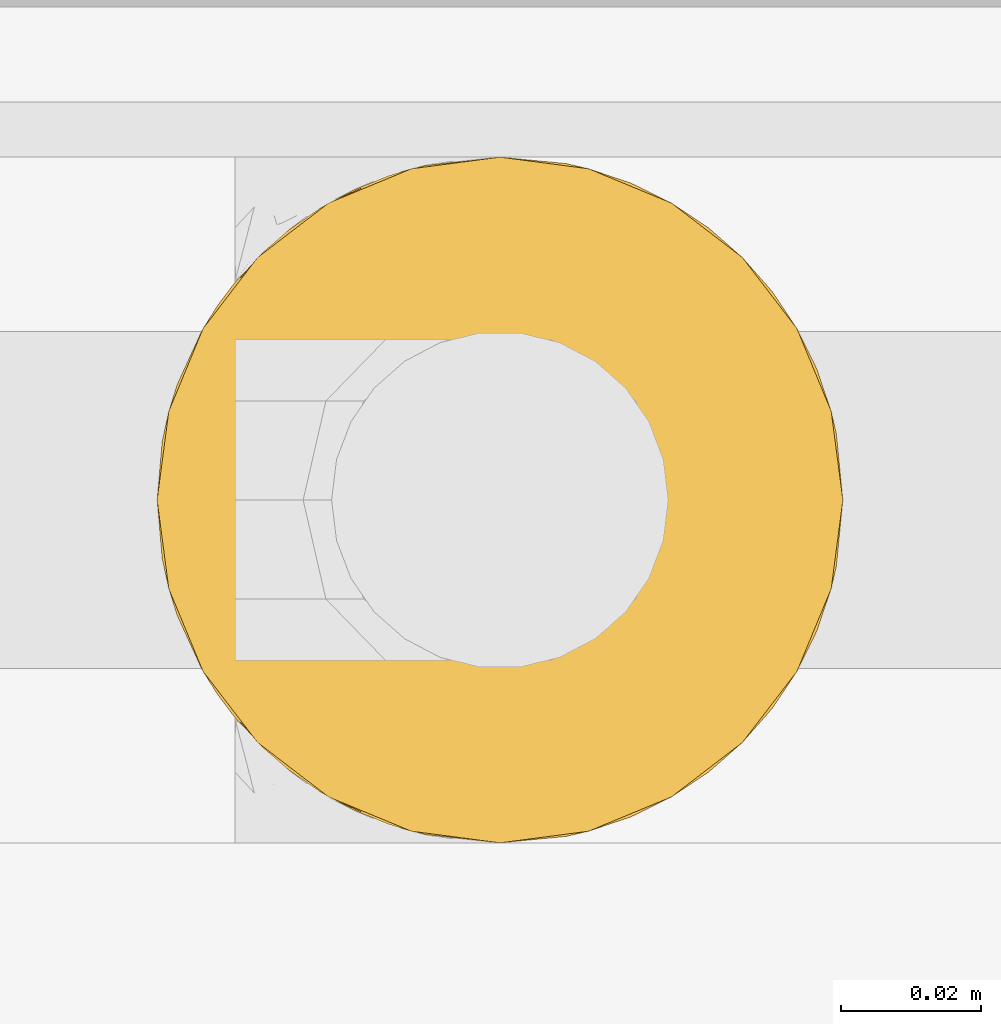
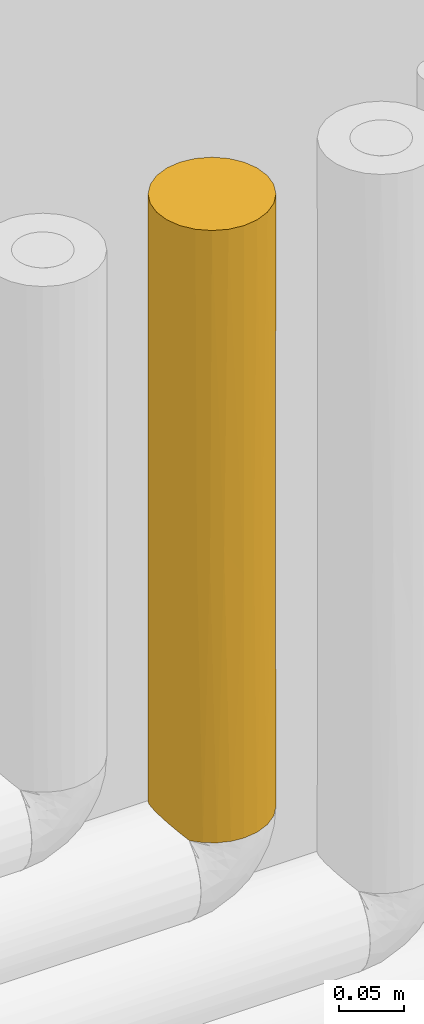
# One storey, part 56 of 94: 1 covering.
"""IFC2X3 building model written with IfcOpenShell, lengths in millimetres."""

from ifc_helpers import new_model, entity, si_unit, converted_unit, derived_unit, direction, frame, origin, place, context, subcontext, project, spatial, faceted_brep, material, element, save


model = new_model("IFC2X3")

# Units and contexts
model_context = context("Model", 3, precision=0.01, world=origin(), true_north=direction((6.123031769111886e-17, 1.0)))
body_context = subcontext(model_context, "Body", "Model", "MODEL_VIEW")
ifc_project = project(units=[si_unit("LENGTHUNIT", "METRE", prefix="MILLI"), si_unit("AREAUNIT", "SQUARE_METRE"), si_unit("VOLUMEUNIT", "CUBIC_METRE"), converted_unit("PLANEANGLEUNIT", "DEGREE", entity("IfcRatioMeasure", 0.017453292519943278), si_unit("PLANEANGLEUNIT", "RADIAN"), dimensions=[0, 0, 0, 0, 0, 0, 0]), si_unit("MASSUNIT", "GRAM", prefix="KILO"), derived_unit("MASSDENSITYUNIT", [(si_unit("MASSUNIT", "GRAM", prefix="KILO"), 1), (si_unit("LENGTHUNIT", "METRE"), -3)]), derived_unit("IONCONCENTRATIONUNIT", [(si_unit("MASSUNIT", "GRAM", prefix="KILO"), 1), (si_unit("LENGTHUNIT", "METRE"), -3)]), derived_unit("MOMENTOFINERTIAUNIT", [(si_unit("LENGTHUNIT", "METRE"), 4)]), si_unit("TIMEUNIT", "SECOND"), si_unit("FREQUENCYUNIT", "HERTZ"), si_unit("THERMODYNAMICTEMPERATUREUNIT", "DEGREE_CELSIUS"), derived_unit("THERMALTRANSMITTANCEUNIT", [(si_unit("MASSUNIT", "GRAM", prefix="KILO"), 1), (si_unit("THERMODYNAMICTEMPERATUREUNIT", "KELVIN"), -1), (si_unit("TIMEUNIT", "SECOND"), -3)]), derived_unit("THERMALCONDUCTANCEUNIT", [(si_unit("MASSUNIT", "GRAM", prefix="KILO"), 1), (si_unit("THERMODYNAMICTEMPERATUREUNIT", "KELVIN"), -1), (si_unit("TIMEUNIT", "SECOND"), -3), (si_unit("LENGTHUNIT", "METRE"), 1)]), derived_unit("VOLUMETRICFLOWRATEUNIT", [(si_unit("LENGTHUNIT", "METRE"), 3), (si_unit("TIMEUNIT", "SECOND"), -1)]), derived_unit("MASSFLOWRATEUNIT", [(si_unit("MASSUNIT", "GRAM", prefix="KILO"), 1), (si_unit("TIMEUNIT", "SECOND"), -1)]), derived_unit("ROTATIONALFREQUENCYUNIT", [(si_unit("TIMEUNIT", "SECOND"), -1)]), si_unit("ELECTRICCURRENTUNIT", "AMPERE"), si_unit("ELECTRICVOLTAGEUNIT", "VOLT"), si_unit("POWERUNIT", "WATT"), si_unit("FORCEUNIT", "NEWTON", prefix="KILO"), si_unit("ILLUMINANCEUNIT", "LUX"), si_unit("LUMINOUSFLUXUNIT", "LUMEN"), si_unit("LUMINOUSINTENSITYUNIT", "CANDELA"), derived_unit("USERDEFINED", [(si_unit("MASSUNIT", "GRAM", prefix="KILO"), -1), (si_unit("LENGTHUNIT", "METRE"), -2), (si_unit("TIMEUNIT", "SECOND"), 3), (si_unit("LUMINOUSFLUXUNIT", "LUMEN"), 1)]), derived_unit("USERDEFINED", [(si_unit("MASSUNIT", "GRAM", prefix="KILO"), 1), (si_unit("TIMEUNIT", "SECOND"), -3), (si_unit("LENGTHUNIT", "METRE"), 3), (si_unit("ELECTRICCURRENTUNIT", "AMPERE"), -2)]), derived_unit("SOUNDPOWERUNIT", [(si_unit("MASSUNIT", "GRAM", prefix="KILO"), 1), (si_unit("TIMEUNIT", "SECOND"), -3), (si_unit("LENGTHUNIT", "METRE"), 2)]), derived_unit("SOUNDPRESSUREUNIT", [(si_unit("MASSUNIT", "GRAM", prefix="KILO"), 1), (si_unit("LENGTHUNIT", "METRE"), -1), (si_unit("TIMEUNIT", "SECOND"), -2)]), derived_unit("LINEARVELOCITYUNIT", [(si_unit("LENGTHUNIT", "METRE"), 1), (si_unit("TIMEUNIT", "SECOND"), -1)]), si_unit("PRESSUREUNIT", "PASCAL"), derived_unit("USERDEFINED", [(si_unit("MASSUNIT", "GRAM", prefix="KILO"), 1), (si_unit("LENGTHUNIT", "METRE"), -2), (si_unit("TIMEUNIT", "SECOND"), -2)]), derived_unit("LINEARFORCEUNIT", [(si_unit("MASSUNIT", "GRAM", prefix="KILO"), 1), (si_unit("TIMEUNIT", "SECOND"), -2)]), derived_unit("PLANARFORCEUNIT", [(si_unit("MASSUNIT", "GRAM", prefix="KILO"), 1), (si_unit("LENGTHUNIT", "METRE"), -1), (si_unit("TIMEUNIT", "SECOND"), -2)]), derived_unit("SPECIFICHEATCAPACITYUNIT", [(si_unit("THERMODYNAMICTEMPERATUREUNIT", "KELVIN"), -1), (si_unit("LENGTHUNIT", "METRE"), 2), (si_unit("TIMEUNIT", "SECOND"), -2)]), derived_unit("HEATINGVALUEUNIT", [(si_unit("LENGTHUNIT", "METRE"), 2), (si_unit("TIMEUNIT", "SECOND"), -2)]), derived_unit("VAPORPERMEABILITYUNIT", [(si_unit("LENGTHUNIT", "METRE"), -1), (si_unit("TIMEUNIT", "SECOND"), 1)]), derived_unit("DYNAMICVISCOSITYUNIT", [(si_unit("MASSUNIT", "GRAM", prefix="KILO"), 1), (si_unit("TIMEUNIT", "SECOND"), -1), (si_unit("LENGTHUNIT", "METRE"), -1)]), derived_unit("THERMALEXPANSIONCOEFFICIENTUNIT", [(si_unit("THERMODYNAMICTEMPERATUREUNIT", "KELVIN"), -1)]), derived_unit("MODULUSOFELASTICITYUNIT", [(si_unit("MASSUNIT", "GRAM", prefix="KILO"), 1), (si_unit("LENGTHUNIT", "METRE"), -1), (si_unit("TIMEUNIT", "SECOND"), -2)]), derived_unit("ISOTHERMALMOISTURECAPACITYUNIT", [(si_unit("LENGTHUNIT", "METRE"), 3), (si_unit("MASSUNIT", "GRAM", prefix="KILO"), -1)]), derived_unit("MOISTUREDIFFUSIVITYUNIT", [(si_unit("TIMEUNIT", "SECOND"), -1), (si_unit("LENGTHUNIT", "METRE"), 2)])], contexts=[model_context])

# Site, building, storey
site_placement = place(None, origin())
site = spatial("IfcSite", under=ifc_project, at=site_placement, Name="Default", CompositionType="ELEMENT")
building_placement = place(site_placement, origin())
building = spatial("IfcBuilding", under=site, at=building_placement, CompositionType="ELEMENT")
storey_placement = place(building_placement, origin())
storey = spatial("IfcBuildingStorey", under=building, at=storey_placement, Name="Niveau 0", CompositionType="ELEMENT", Elevation=0.0)

# Covering
ifc_material = material(Name="Isolation - Laine minérale")
covering_placement = place(storey_placement, frame((-6209.897585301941, 9976.120352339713, 3262.0)))
element("IfcCovering", 1, at=covering_placement, inside=storey, material=ifc_material, Name="Isolation des canalisations:Laine minérale", ObjectType="Isolation des canalisations:Laine minérale", PredefinedType="INSULATION", context=body_context, shape_type="Brep", body=[
    faceted_brep([(20.474956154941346, 12.012544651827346, -574.0), (12.725272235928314, 19.58435221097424, -574.0), (12.725272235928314, 81.86619226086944, -574.0), (20.474956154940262, 89.4379998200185, -574.0), (29.69648789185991, 95.1273794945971, -574.0), (39.94049838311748, 98.6569481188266, -574.0), (50.72527223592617, 99.85527223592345, -574.0), (63.44105192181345, 98.1812080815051, -574.0), (75.29027223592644, 93.2731003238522, -574.0), (85.46542839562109, 85.46542839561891, -574.0), (93.27310032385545, 75.2902722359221, -574.0), (98.18120808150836, 63.44105192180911, -574.0), (99.85527223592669, 50.72527223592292, -574.0), (98.18120808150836, 38.00949255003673, -574.0), (93.27310032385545, 26.160272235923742, -574.0), (85.46542839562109, 15.985116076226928, -574.0), (75.29027223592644, 8.177444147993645, -574.0), (63.44105192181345, 3.2693363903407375, -574.0), (50.72527223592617, 1.595272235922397, -574.0), (39.94049838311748, 2.793596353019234, -574.0), (29.69648789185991, 6.323164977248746, -574.0), (8.17744414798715, 26.160272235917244, 0.0), (15.985116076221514, 15.98511607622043, 0.0), (26.160272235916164, 8.17744414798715, 0.0), (38.00949255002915, 3.26933639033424, 0.0), (50.72527223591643, 1.5952722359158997, 0.0), (63.4410519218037, 3.26933639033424, 0.0), (75.29027223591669, 8.17744414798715, 0.0), (85.46542839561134, 15.98511607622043, 0.0), (93.2731003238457, 26.160272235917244, 0.0), (98.18120808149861, 38.00949255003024, 0.0), (99.85527223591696, 50.72527223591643, 0.0), (98.18120808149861, 63.44105192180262, 0.0), (93.2731003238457, 75.29027223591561, 0.0), (85.46542839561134, 85.46542839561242, 0.0), (75.29027223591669, 93.2731003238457, 0.0), (63.4410519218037, 98.18120808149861, 0.0), (50.72527223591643, 99.85527223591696, 0.0), (38.00949255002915, 98.18120808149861, 0.0), (26.160272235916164, 93.2731003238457, 0.0), (15.985116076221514, 85.46542839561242, 0.0), (8.17744414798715, 75.29027223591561, 0.0), (3.26933639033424, 63.44105192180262, 0.0), (1.5952722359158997, 50.72527223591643, 0.0), (3.26933639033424, 38.00949255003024, 0.0), (89.70272183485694, 20.81682321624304, -287.0000006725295), (96.11547359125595, 31.924035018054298, -286.9999975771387), (60.212810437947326, 2.520049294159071, -304.7640166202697), (50.725272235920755, 1.595272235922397, -244.74343075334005), (50.72527223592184, 1.595272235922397, -329.2563524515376), (98.93049510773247, 41.23773367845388, -304.76400772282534), (99.85527223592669, 50.72527223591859, -244.74333588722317), (80.63372123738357, 11.74782262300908, -287.0), (69.52650923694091, 5.335070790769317, -287.0), (34.7208951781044, 4.275118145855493, -300.20171935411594), (24.92839654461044, 8.912856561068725, -307.5180795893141), (10.301900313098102, 22.80202202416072, -287.32593196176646), (16.88397494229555, 15.108934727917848, -310.2112654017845), (3.234722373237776, 38.13938435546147, -295.8486430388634), (4.461372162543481, 34.190204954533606, -565.7360999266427), (7.965081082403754, 26.531823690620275, -569.2398088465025), (1.5952722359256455, 50.72527223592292, -562.8700000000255), (2.3170998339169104, 42.33445912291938, -563.5918275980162), (1.5952722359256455, 50.72527223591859, -318.12667252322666), (3.234722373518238, 63.311160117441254, -295.84864302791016), (10.301900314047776, 78.64852244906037, -287.32593202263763), (7.965081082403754, 74.91872078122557, -569.239808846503), (4.461372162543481, 67.26033951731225, -565.7360999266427), (2.3170998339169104, 59.116085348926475, -563.5918275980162), (24.928396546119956, 92.53768791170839, -307.5180794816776), (16.88397494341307, 86.34160974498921, -310.21126581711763), (34.72089518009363, 97.17542632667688, -300.2017192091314), (50.72527223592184, 99.85527223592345, -329.2566727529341), (69.52650926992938, 96.11547366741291, -287.0), (60.21281045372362, 98.93049517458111, -269.2359829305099), (98.93049517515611, 60.21281045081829, -304.7640171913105), (96.11547366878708, 69.52650926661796, -287.0), (80.63372124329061, 89.70272184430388, -287.0), (89.7027218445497, 80.63372124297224, -287.0)], [[[0, 1, 2, 3, 4, 5, 6, 7, 8, 9, 10, 11, 12, 13, 14, 15, 16, 17, 18, 19, 20]], [[21, 22, 23, 24, 25, 26, 27, 28, 29, 30, 31, 32, 33, 34, 35, 36, 37, 38, 39, 40, 41, 42, 43, 44]], [[45, 46, 29]], [[47, 25, 48, 49, 18]], [[30, 29, 46]], [[30, 46, 50]], [[46, 13, 50]], [[46, 45, 14]], [[28, 45, 29]], [[50, 12, 51, 31]], [[45, 15, 14]], [[31, 30, 50]], [[52, 45, 28]], [[13, 46, 14]], [[53, 27, 26]], [[12, 50, 13]], [[27, 52, 28]], [[18, 17, 47]], [[52, 16, 15]], [[53, 52, 27]], [[47, 17, 53]], [[53, 16, 52]], [[45, 52, 15]], [[16, 53, 17]], [[26, 47, 53]], [[25, 47, 26]], [[54, 49, 24]], [[23, 55, 54]], [[56, 57, 22]], [[58, 59, 60]], [[24, 49, 48, 25]], [[19, 18, 49]], [[19, 54, 20]], [[55, 0, 20]], [[58, 44, 43]], [[0, 55, 57]], [[58, 56, 21]], [[22, 57, 55]], [[54, 55, 20]], [[61, 62, 63]], [[22, 55, 23]], [[63, 62, 58]], [[63, 58, 43]], [[60, 1, 56]], [[58, 62, 59]], [[1, 0, 57]], [[58, 60, 56]], [[21, 44, 58]], [[23, 54, 24]], [[56, 22, 21]], [[1, 57, 56]], [[49, 54, 19]], [[43, 64, 63]], [[64, 43, 42]], [[41, 65, 64]], [[64, 66, 67]], [[68, 64, 67]], [[40, 65, 41]], [[2, 66, 65]], [[64, 65, 66]], [[68, 61, 63]], [[40, 69, 70]], [[63, 64, 68]], [[40, 39, 69]], [[40, 70, 65]], [[39, 38, 71]], [[71, 69, 39]], [[2, 70, 3]], [[72, 6, 5]], [[71, 4, 69]], [[3, 69, 4]], [[72, 71, 38]], [[4, 71, 5]], [[72, 5, 71]], [[37, 72, 38]], [[69, 3, 70]], [[2, 65, 70]], [[64, 42, 41]], [[73, 74, 36]], [[32, 75, 76]], [[37, 74, 6, 72]], [[73, 36, 35]], [[74, 37, 36]], [[7, 73, 8]], [[6, 74, 7]], [[77, 9, 8]], [[77, 73, 35]], [[78, 77, 34]], [[12, 75, 31, 51]], [[76, 33, 32]], [[75, 11, 76]], [[12, 11, 75]], [[78, 10, 9]], [[76, 78, 33]], [[31, 75, 32]], [[76, 10, 78]], [[77, 78, 9]], [[34, 77, 35]], [[10, 76, 11]], [[33, 78, 34]], [[7, 74, 73]], [[73, 77, 8]], [[61, 68, 67, 66, 2, 1, 60, 59, 62]]]),
])

save(model, "model.ifc")
